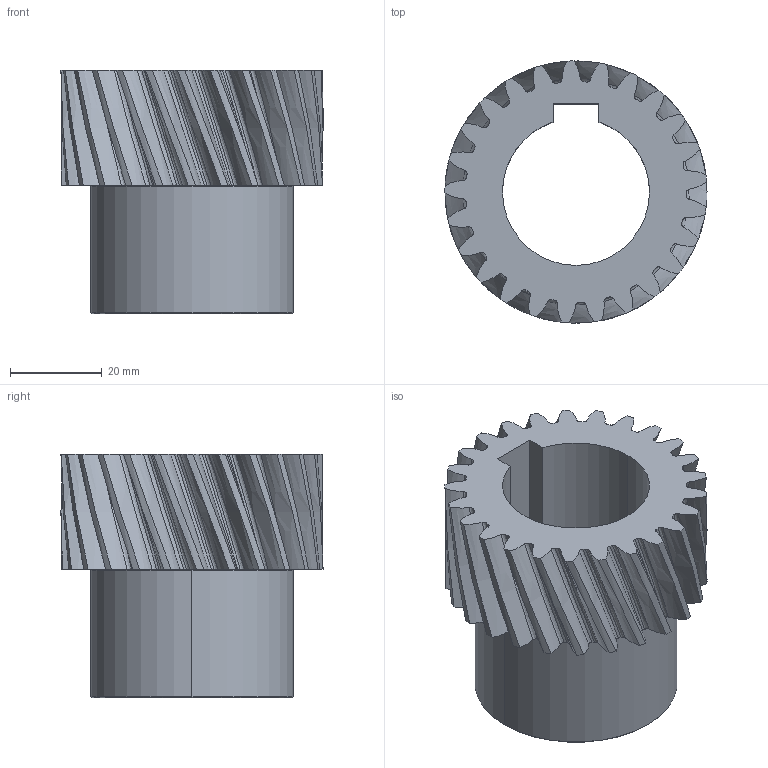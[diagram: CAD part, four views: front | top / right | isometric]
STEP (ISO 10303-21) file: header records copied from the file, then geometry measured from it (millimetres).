
FILE_DESCRIPTION (( 'STEP AP203' ), '1' );
FILE_NAME ('M2 Z=25 Ø32 Kamalý.STEP', '2018-04-02T08:57:38', ( '' ), ( '' ), 'SwSTEP 2.0', 'SolidWorks 2013', '' );
FILE_SCHEMA (( 'CONFIG_CONTROL_DESIGN' ));
Length unit declared in the file: millimetre
Products named in the file (1): M2 Z=25 Ø32 Kamalý
Bounding box: 57.05 x 57.05 x 53 mm (x, y, z)
Volume: 52724.7 mm3; surface area: 20495.6 mm2
Topology: 1 solids, 1 shells, 166 faces, 487 edges, 324 vertices
Faces by surface type: bspline 127, cylinder 31, plane 6, cone 2
Entity records: 19689 total; most frequent: CARTESIAN_POINT 16620, ORIENTED_EDGE 974, EDGE_CURVE 487, VERTEX_POINT 324, DIRECTION 229, B_SPLINE_CURVE_WITH_KNOTS 175, EDGE_LOOP 169, ADVANCED_FACE 166
